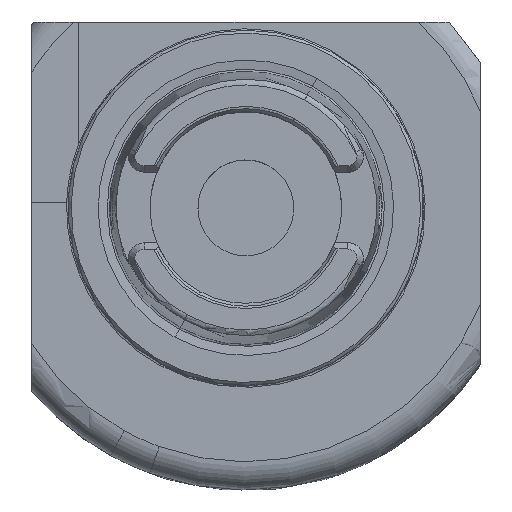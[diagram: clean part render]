
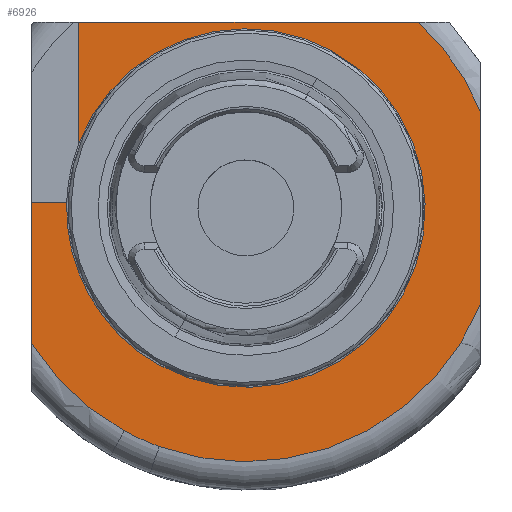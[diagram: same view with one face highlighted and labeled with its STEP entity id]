
A CAD part, top view. The second image highlights one B-rep face of the part: STEP entity #6926.
In plain terms, the highlighted planar face has unit normal (0, 0, 1).
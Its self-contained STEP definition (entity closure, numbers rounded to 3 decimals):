
#6194=AXIS2_PLACEMENT_3D('Circle Axis2P3D',#6192,#6193,$) ;
#6242=AXIS2_PLACEMENT_3D('Plane Axis2P3D',#6239,#6240,#6241) ;
#6300=AXIS2_PLACEMENT_3D('Circle Axis2P3D',#6298,#6299,$) ;
#6328=AXIS2_PLACEMENT_3D('Circle Axis2P3D',#6326,#6327,$) ;
#6333=AXIS2_PLACEMENT_3D('Circle Axis2P3D',#6331,#6332,$) ;
#6340=AXIS2_PLACEMENT_3D('Circle Axis2P3D',#6338,#6339,$) ;
#6505=AXIS2_PLACEMENT_3D('Circle Axis2P3D',#6503,#6504,$) ;
#6522=AXIS2_PLACEMENT_3D('Circle Axis2P3D',#6520,#6521,$) ;
#6889=AXIS2_PLACEMENT_3D('Circle Axis2P3D',#6887,#6888,$) ;
#6192=CARTESIAN_POINT('Axis2P3D Location',(0.,0.,-30.)) ;
#6196=CARTESIAN_POINT('Vertex',(-21.574,-39.491,-30.)) ;
#6198=CARTESIAN_POINT('Vertex',(-38.,-24.104,-30.)) ;
#6239=CARTESIAN_POINT('Axis2P3D Location',(0.,-31.,-30.)) ;
#6248=CARTESIAN_POINT('Vertex',(-29.645,33.,-30.)) ;
#6255=CARTESIAN_POINT('Vertex',(-38.,1.,-30.)) ;
#6258=CARTESIAN_POINT('Line Origine',(-34.892,1.,-30.)) ;
#6262=CARTESIAN_POINT('Vertex',(-31.784,1.,-30.)) ;
#6269=CARTESIAN_POINT('Vertex',(-29.645,11.508,-30.)) ;
#6272=CARTESIAN_POINT('Line Origine',(-29.645,22.254,-30.)) ;
#6295=CARTESIAN_POINT('Vertex',(-15.246,-27.907,-30.)) ;
#6298=CARTESIAN_POINT('Axis2P3D Location',(0.,0.,-30.)) ;
#6302=CARTESIAN_POINT('Vertex',(15.246,27.907,-30.)) ;
#6326=CARTESIAN_POINT('Axis2P3D Location',(0.,0.,-30.)) ;
#6331=CARTESIAN_POINT('Axis2P3D Location',(0.,0.,-30.)) ;
#6335=CARTESIAN_POINT('Vertex',(-29.645,-11.508,-30.)) ;
#6338=CARTESIAN_POINT('Axis2P3D Location',(0.,0.,-30.)) ;
#6429=CARTESIAN_POINT('Line Origine',(-38.,-11.552,-30.)) ;
#6472=CARTESIAN_POINT('Vertex',(-15.332,-42.308,-30.)) ;
#6500=CARTESIAN_POINT('Vertex',(41.6,-17.159,-30.)) ;
#6503=CARTESIAN_POINT('Axis2P3D Location',(0.,0.,-30.)) ;
#6520=CARTESIAN_POINT('Axis2P3D Location',(0.,0.,-30.)) ;
#6568=CARTESIAN_POINT('Vertex',(41.6,17.159,-30.)) ;
#6571=CARTESIAN_POINT('Line Origine',(41.6,0.,-30.)) ;
#6884=CARTESIAN_POINT('Vertex',(30.594,33.,-30.)) ;
#6887=CARTESIAN_POINT('Axis2P3D Location',(0.,0.,-30.)) ;
#6906=CARTESIAN_POINT('Line Origine',(0.475,33.,-30.)) ;
#6193=DIRECTION('Axis2P3D Direction',(-0.,0.,-1.)) ;
#6240=DIRECTION('Axis2P3D Direction',(0.,0.,-1.)) ;
#6241=DIRECTION('Axis2P3D XDirection',(-1.,0.,0.)) ;
#6259=DIRECTION('Vector Direction',(1.,0.,0.)) ;
#6273=DIRECTION('Vector Direction',(0.,1.,0.)) ;
#6299=DIRECTION('Axis2P3D Direction',(-0.,0.,-1.)) ;
#6327=DIRECTION('Axis2P3D Direction',(-0.,0.,-1.)) ;
#6332=DIRECTION('Axis2P3D Direction',(-0.,0.,-1.)) ;
#6339=DIRECTION('Axis2P3D Direction',(-0.,0.,-1.)) ;
#6430=DIRECTION('Vector Direction',(0.,-1.,0.)) ;
#6504=DIRECTION('Axis2P3D Direction',(0.,0.,-1.)) ;
#6521=DIRECTION('Axis2P3D Direction',(0.,0.,-1.)) ;
#6572=DIRECTION('Vector Direction',(0.,-1.,0.)) ;
#6888=DIRECTION('Axis2P3D Direction',(0.,0.,-1.)) ;
#6907=DIRECTION('Vector Direction',(-1.,0.,0.)) ;
#6260=VECTOR('Line Direction',#6259,1.) ;
#6274=VECTOR('Line Direction',#6273,1.) ;
#6431=VECTOR('Line Direction',#6430,1.) ;
#6573=VECTOR('Line Direction',#6572,1.) ;
#6908=VECTOR('Line Direction',#6907,1.) ;
#6912=ORIENTED_EDGE('',*,*,#6276,.F.) ;
#6913=ORIENTED_EDGE('',*,*,#6330,.T.) ;
#6914=ORIENTED_EDGE('',*,*,#6304,.T.) ;
#6915=ORIENTED_EDGE('',*,*,#6342,.T.) ;
#6916=ORIENTED_EDGE('',*,*,#6337,.T.) ;
#6917=ORIENTED_EDGE('',*,*,#6264,.F.) ;
#6918=ORIENTED_EDGE('',*,*,#6433,.T.) ;
#6919=ORIENTED_EDGE('',*,*,#6200,.F.) ;
#6920=ORIENTED_EDGE('',*,*,#6524,.F.) ;
#6921=ORIENTED_EDGE('',*,*,#6507,.F.) ;
#6922=ORIENTED_EDGE('',*,*,#6575,.F.) ;
#6923=ORIENTED_EDGE('',*,*,#6891,.F.) ;
#6924=ORIENTED_EDGE('',*,*,#6910,.T.) ;
#6926=ADVANCED_FACE('NOCUT',(#6925),#6243,.F.) ;
#6195=CIRCLE('generated circle',#6194,45.) ;
#6301=CIRCLE('generated circle',#6300,31.8) ;
#6329=CIRCLE('generated circle',#6328,31.8) ;
#6334=CIRCLE('generated circle',#6333,31.8) ;
#6341=CIRCLE('generated circle',#6340,31.8) ;
#6506=CIRCLE('generated circle',#6505,45.) ;
#6523=CIRCLE('generated circle',#6522,45.) ;
#6890=CIRCLE('generated circle',#6889,45.) ;
#6200=EDGE_CURVE('',#6197,#6199,#6195,.T.) ;
#6264=EDGE_CURVE('',#6256,#6263,#6261,.T.) ;
#6276=EDGE_CURVE('',#6270,#6249,#6275,.T.) ;
#6304=EDGE_CURVE('',#6303,#6296,#6301,.T.) ;
#6330=EDGE_CURVE('',#6270,#6303,#6329,.T.) ;
#6337=EDGE_CURVE('',#6336,#6263,#6334,.T.) ;
#6342=EDGE_CURVE('',#6296,#6336,#6341,.T.) ;
#6433=EDGE_CURVE('',#6256,#6199,#6432,.T.) ;
#6507=EDGE_CURVE('',#6501,#6473,#6506,.T.) ;
#6524=EDGE_CURVE('',#6473,#6197,#6523,.T.) ;
#6575=EDGE_CURVE('',#6569,#6501,#6574,.T.) ;
#6891=EDGE_CURVE('',#6885,#6569,#6890,.T.) ;
#6910=EDGE_CURVE('',#6885,#6249,#6909,.T.) ;
#6911=EDGE_LOOP('',(#6912,#6913,#6914,#6915,#6916,#6917,#6918,#6919,#6920,#6921,#6922,#6923,#6924)) ;
#6925=FACE_OUTER_BOUND('',#6911,.T.) ;
#6261=LINE('Line',#6258,#6260) ;
#6275=LINE('Line',#6272,#6274) ;
#6432=LINE('Line',#6429,#6431) ;
#6574=LINE('Line',#6571,#6573) ;
#6909=LINE('Line',#6906,#6908) ;
#6243=PLANE('',#6242) ;
#6197=VERTEX_POINT('',#6196) ;
#6199=VERTEX_POINT('',#6198) ;
#6249=VERTEX_POINT('',#6248) ;
#6256=VERTEX_POINT('',#6255) ;
#6263=VERTEX_POINT('',#6262) ;
#6270=VERTEX_POINT('',#6269) ;
#6296=VERTEX_POINT('',#6295) ;
#6303=VERTEX_POINT('',#6302) ;
#6336=VERTEX_POINT('',#6335) ;
#6473=VERTEX_POINT('',#6472) ;
#6501=VERTEX_POINT('',#6500) ;
#6569=VERTEX_POINT('',#6568) ;
#6885=VERTEX_POINT('',#6884) ;
